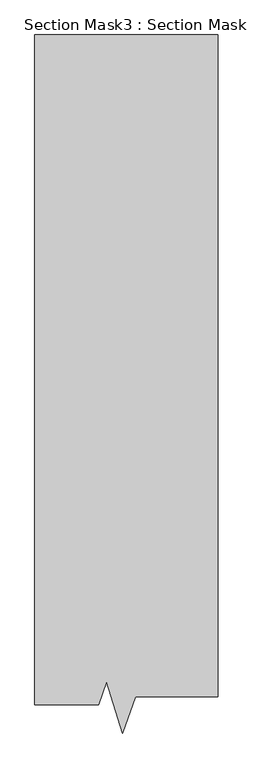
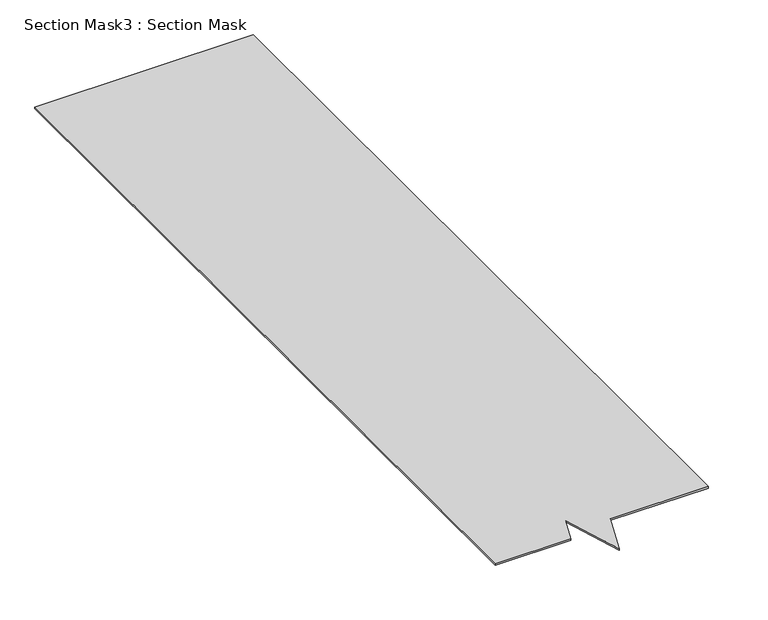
"""IFC4 building model written with IfcOpenShell, lengths in millimetres: proxy geometry, Section Mask3 : Section Mask."""

from ifc_helpers import new_model, si_unit, frame, origin, place, context, project, spatial, polyline, outline, extrude, source, transform, mapped, element, save


def section_mask3_section_mask_b550a38f(model_context):
    return source(origin(), model_context, "Body", "SweptSolid", [
        extrude(outline(polyline([(8124.664325, 669.373934), (7950.4235609, 669.373934), (7950.4235609, 2503.5614947), (8452.5633775, 2503.5614947), (8452.5633775, 690.2224056), (8227.2982256, 690.2224056), (8190.6813689, 591.0595639), (8147.6812645, 731.7065681), (8124.664325, 669.373934)])), frame((0.0, 0.0, 45.0273345), z_axis=(0.0, 0.0, 1.0), x_axis=(1.0, 0.0, 0.0)), (0.0, 0.0, 1.0), 3.7483171),
    ])


if __name__ == "__main__":
    model = new_model("IFC4")
    model_context = context("Model", 3, world=origin())
    ifc_project = project(units=[si_unit("LENGTHUNIT", "METRE", prefix="MILLI")], contexts=[model_context])
    site = spatial("IfcSite", under=ifc_project)
    building = spatial("IfcBuilding", under=site)
    placement = place(None, origin())
    section_mask3_section_mask_shape = section_mask3_section_mask_b550a38f(model_context)
    element("IfcBuildingElementProxy", 1, Name="Section Mask3 : Section Mask", ObjectType="Section Mask3 : Section Mask", at=placement, inside=building, context=model_context, shape_type="MappedRepresentation", body=[
        mapped(section_mask3_section_mask_shape, transform((0.0, 0.0, 0.0), x_axis=(1.0, 0.0, 0.0), y_axis=(0.0, 1.0, 0.0), z_axis=(0.0, 0.0, 1.0))),
    ])
    save(model, "model.ifc")
